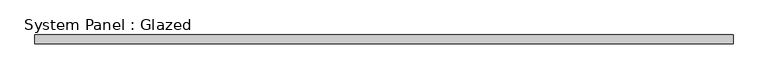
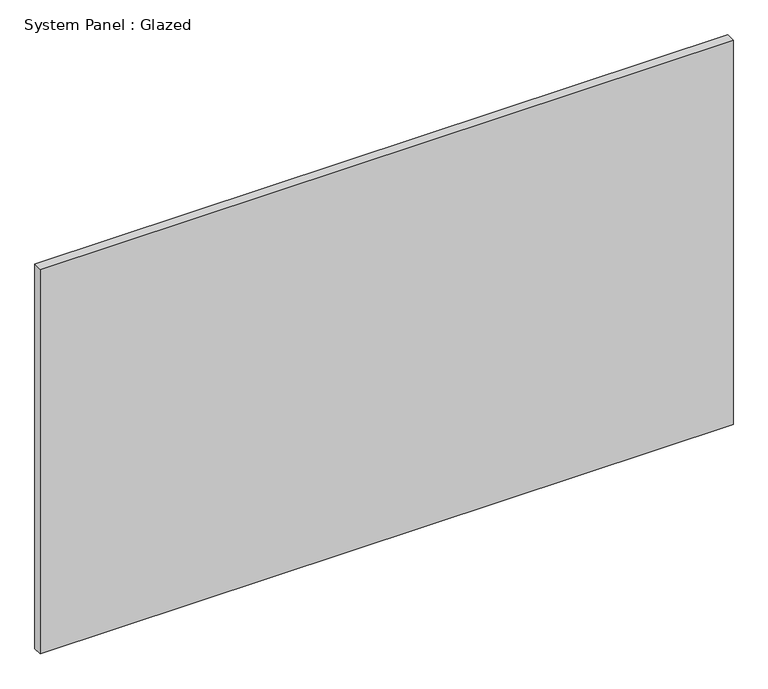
"""IFC4 building model written with IfcOpenShell, lengths in millimetres: plate geometry, System Panel : Glazed."""

from ifc_helpers import new_model, si_unit, origin, origin_with_axes, place, context, project, spatial, polyline, outline, extrude, source, transform, mapped, element, save


def system_panel_glazed_70da479d(model_context):
    return source(origin(), model_context, "Body", "SweptSolid", [
        extrude(outline(polyline([(984.25, -44.45), (-984.25, -44.45), (-984.25, -19.05), (984.25, -19.05), (984.25, -44.45)])), origin_with_axes(), (0.0, 0.0, 1.0), 1155.7),
    ])


if __name__ == "__main__":
    model = new_model("IFC4")
    model_context = context("Model", 3, world=origin())
    ifc_project = project(units=[si_unit("LENGTHUNIT", "METRE", prefix="MILLI")], contexts=[model_context])
    site = spatial("IfcSite", under=ifc_project)
    building = spatial("IfcBuilding", under=site)
    placement = place(None, origin())
    system_panel_glazed_shape = system_panel_glazed_70da479d(model_context)
    element("IfcPlate", 1, ObjectType="System Panel : Glazed", at=placement, inside=building, context=model_context, shape_type="MappedRepresentation", body=[
        mapped(system_panel_glazed_shape, transform((0.0, 0.0, 0.0), x_axis=(1.0, 0.0, 0.0), y_axis=(0.0, 1.0, 0.0), z_axis=(0.0, 0.0, 1.0))),
    ])
    save(model, "model.ifc")
